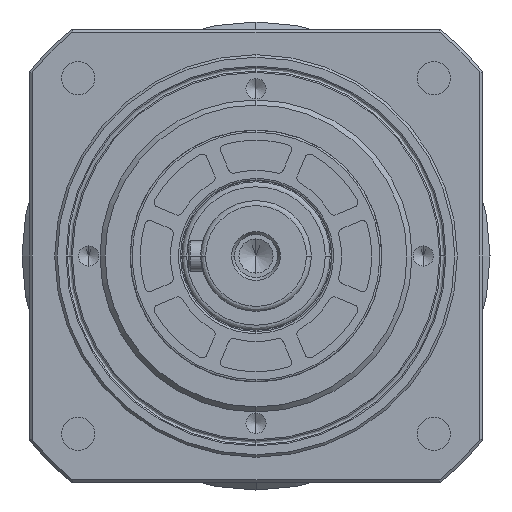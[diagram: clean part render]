
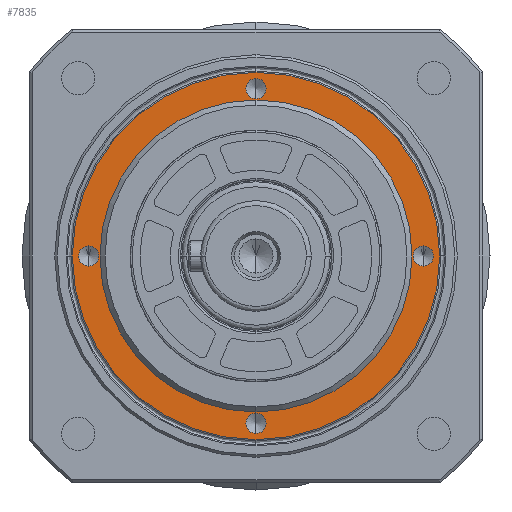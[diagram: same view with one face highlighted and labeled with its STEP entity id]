
A CAD part, left-side view. The second image highlights one B-rep face of the part: STEP entity #7835.
In plain terms, the highlighted planar face has unit normal (-1, 0, 0).
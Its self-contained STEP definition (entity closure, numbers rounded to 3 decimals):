
#8 = VERTEX_POINT ( 'NONE', #15969 ) ;
#155 = CARTESIAN_POINT ( 'NONE',  ( 1., 0., -31. ) ) ;
#219 = DIRECTION ( 'NONE',  ( 0., 0., 1. ) ) ;
#278 = DIRECTION ( 'NONE',  ( 1., 0., 0. ) ) ;
#623 = FACE_BOUND ( 'NONE', #19604, .T. ) ;
#626 = ORIENTED_EDGE ( 'NONE', *, *, #3490, .T. ) ;
#679 = CIRCLE ( 'NONE', #2704, 2. ) ;
#1249 = AXIS2_PLACEMENT_3D ( 'NONE', #19547, #10641, #18312 ) ;
#1250 = EDGE_LOOP ( 'NONE', ( #6197, #9457 ) ) ;
#1418 = CIRCLE ( 'NONE', #6004, 2. ) ;
#1488 = CARTESIAN_POINT ( 'NONE',  ( 1., 0., 35.25 ) ) ;
#1927 = EDGE_CURVE ( 'NONE', #15870, #15093, #15354, .T. ) ;
#2006 = EDGE_CURVE ( 'NONE', #8, #3250, #8808, .T. ) ;
#2320 = DIRECTION ( 'NONE',  ( 1., 0., 0. ) ) ;
#2394 = CARTESIAN_POINT ( 'NONE',  ( 1., 0., 33.25 ) ) ;
#2447 = EDGE_CURVE ( 'NONE', #15673, #16539, #14187, .T. ) ;
#2456 = DIRECTION ( 'NONE',  ( 0., 0., 1. ) ) ;
#2704 = AXIS2_PLACEMENT_3D ( 'NONE', #17118, #15471, #15672 ) ;
#2890 = DIRECTION ( 'NONE',  ( 0., 0., 1. ) ) ;
#2919 = AXIS2_PLACEMENT_3D ( 'NONE', #3277, #278, #219 ) ;
#3143 = VERTEX_POINT ( 'NONE', #13756 ) ;
#3194 = AXIS2_PLACEMENT_3D ( 'NONE', #15114, #4050, #11915 ) ;
#3226 = EDGE_CURVE ( 'NONE', #16539, #15673, #12710, .T. ) ;
#3250 = VERTEX_POINT ( 'NONE', #1488 ) ;
#3277 = CARTESIAN_POINT ( 'NONE',  ( 1., 33.25, 0. ) ) ;
#3490 = EDGE_CURVE ( 'NONE', #17390, #3143, #1418, .T. ) ;
#3525 = DIRECTION ( 'NONE',  ( 0., 0., 1. ) ) ;
#3963 = DIRECTION ( 'NONE',  ( 1., 0., 0. ) ) ;
#4050 = DIRECTION ( 'NONE',  ( 1., 0., 0. ) ) ;
#4405 = ORIENTED_EDGE ( 'NONE', *, *, #5809, .T. ) ;
#4439 = DIRECTION ( 'NONE',  ( 0., 0., 1. ) ) ;
#4473 = AXIS2_PLACEMENT_3D ( 'NONE', #15551, #7849, #3525 ) ;
#4631 = CARTESIAN_POINT ( 'NONE',  ( 1., 33.25, 0. ) ) ;
#4856 = FACE_BOUND ( 'NONE', #12597, .T. ) ;
#5148 = EDGE_CURVE ( 'NONE', #15093, #15870, #13714, .T. ) ;
#5809 = EDGE_CURVE ( 'NONE', #3143, #17390, #679, .T. ) ;
#6004 = AXIS2_PLACEMENT_3D ( 'NONE', #8372, #9836, #19363 ) ;
#6121 = CARTESIAN_POINT ( 'NONE',  ( 1., -33.25, 2. ) ) ;
#6184 = CIRCLE ( 'NONE', #15646, 36.5 ) ;
#6197 = ORIENTED_EDGE ( 'NONE', *, *, #8414, .T. ) ;
#6300 = CARTESIAN_POINT ( 'NONE',  ( 1., 36.5, 0. ) ) ;
#6613 = CARTESIAN_POINT ( 'NONE',  ( 1., 0., 31. ) ) ;
#6622 = FACE_BOUND ( 'NONE', #8271, .T. ) ;
#6748 = ORIENTED_EDGE ( 'NONE', *, *, #16558, .T. ) ;
#7039 = CARTESIAN_POINT ( 'NONE',  ( 1., -33.25, 0. ) ) ;
#7052 = CARTESIAN_POINT ( 'NONE',  ( 1., -33.25, -2. ) ) ;
#7142 = PLANE ( 'NONE',  #15925 ) ;
#7151 = VERTEX_POINT ( 'NONE', #11139 ) ;
#7586 = DIRECTION ( 'NONE',  ( 1., 0., 0. ) ) ;
#7835 = ADVANCED_FACE ( 'NONE', ( #4856, #9086, #10851, #6622, #13590, #623 ), #7142, .T. ) ;
#7849 = DIRECTION ( 'NONE',  ( 1., 0., 0. ) ) ;
#7980 = ORIENTED_EDGE ( 'NONE', *, *, #13623, .T. ) ;
#8151 = DIRECTION ( 'NONE',  ( 0., 1., 0. ) ) ;
#8271 = EDGE_LOOP ( 'NONE', ( #17149, #16889 ) ) ;
#8372 = CARTESIAN_POINT ( 'NONE',  ( 1., 0., -33.25 ) ) ;
#8414 = EDGE_CURVE ( 'NONE', #3250, #8, #9091, .T. ) ;
#8559 = ORIENTED_EDGE ( 'NONE', *, *, #9613, .F. ) ;
#8796 = DIRECTION ( 'NONE',  ( -1., 0., 0. ) ) ;
#8808 = CIRCLE ( 'NONE', #4473, 2. ) ;
#8845 = ORIENTED_EDGE ( 'NONE', *, *, #3226, .T. ) ;
#9060 = EDGE_LOOP ( 'NONE', ( #626, #4405 ) ) ;
#9086 = FACE_OUTER_BOUND ( 'NONE', #11183, .T. ) ;
#9091 = CIRCLE ( 'NONE', #20043, 2. ) ;
#9235 = VERTEX_POINT ( 'NONE', #6613 ) ;
#9457 = ORIENTED_EDGE ( 'NONE', *, *, #2006, .T. ) ;
#9613 = EDGE_CURVE ( 'NONE', #15707, #7151, #6184, .T. ) ;
#9836 = DIRECTION ( 'NONE',  ( 1., 0., 0. ) ) ;
#9954 = CARTESIAN_POINT ( 'NONE',  ( 1., 0., 0. ) ) ;
#10160 = CARTESIAN_POINT ( 'NONE',  ( 1., 33.25, -2. ) ) ;
#10266 = CARTESIAN_POINT ( 'NONE',  ( 1., 31., 0. ) ) ;
#10641 = DIRECTION ( 'NONE',  ( 1., 0., 0. ) ) ;
#10822 = CARTESIAN_POINT ( 'NONE',  ( 1., 33.25, 2. ) ) ;
#10851 = FACE_BOUND ( 'NONE', #9060, .T. ) ;
#11139 = CARTESIAN_POINT ( 'NONE',  ( 1., -36.5, 0. ) ) ;
#11183 = EDGE_LOOP ( 'NONE', ( #8559, #12627 ) ) ;
#11269 = AXIS2_PLACEMENT_3D ( 'NONE', #9954, #11338, #8151 ) ;
#11338 = DIRECTION ( 'NONE',  ( 1., 0., 0. ) ) ;
#11715 = DIRECTION ( 'NONE',  ( 0., 0., 1. ) ) ;
#11915 = DIRECTION ( 'NONE',  ( 0., 0., -1. ) ) ;
#12597 = EDGE_LOOP ( 'NONE', ( #6748, #7980 ) ) ;
#12627 = ORIENTED_EDGE ( 'NONE', *, *, #18495, .F. ) ;
#12708 = DIRECTION ( 'NONE',  ( 0., 1., 0. ) ) ;
#12710 = CIRCLE ( 'NONE', #13467, 2. ) ;
#13467 = AXIS2_PLACEMENT_3D ( 'NONE', #4631, #18633, #2890 ) ;
#13590 = FACE_BOUND ( 'NONE', #1250, .T. ) ;
#13623 = EDGE_CURVE ( 'NONE', #9235, #18391, #16463, .T. ) ;
#13714 = CIRCLE ( 'NONE', #17435, 2. ) ;
#13756 = CARTESIAN_POINT ( 'NONE',  ( 1., 0., -35.25 ) ) ;
#13845 = CARTESIAN_POINT ( 'NONE',  ( 1., -33.25, 0. ) ) ;
#14133 = CARTESIAN_POINT ( 'NONE',  ( 1., 0., 0. ) ) ;
#14187 = CIRCLE ( 'NONE', #2919, 2. ) ;
#14449 = CARTESIAN_POINT ( 'NONE',  ( 1., 0., -31.25 ) ) ;
#15093 = VERTEX_POINT ( 'NONE', #6121 ) ;
#15114 = CARTESIAN_POINT ( 'NONE',  ( 1., 0., 0. ) ) ;
#15354 = CIRCLE ( 'NONE', #17625, 2. ) ;
#15471 = DIRECTION ( 'NONE',  ( 1., 0., 0. ) ) ;
#15551 = CARTESIAN_POINT ( 'NONE',  ( 1., 0., 33.25 ) ) ;
#15646 = AXIS2_PLACEMENT_3D ( 'NONE', #14133, #7586, #12708 ) ;
#15672 = DIRECTION ( 'NONE',  ( 0., 0., 1. ) ) ;
#15673 = VERTEX_POINT ( 'NONE', #10822 ) ;
#15707 = VERTEX_POINT ( 'NONE', #6300 ) ;
#15870 = VERTEX_POINT ( 'NONE', #7052 ) ;
#15925 = AXIS2_PLACEMENT_3D ( 'NONE', #10266, #8796, #11715 ) ;
#15969 = CARTESIAN_POINT ( 'NONE',  ( 1., 0., 31.25 ) ) ;
#16463 = CIRCLE ( 'NONE', #3194, 31. ) ;
#16539 = VERTEX_POINT ( 'NONE', #10160 ) ;
#16558 = EDGE_CURVE ( 'NONE', #18391, #9235, #18369, .T. ) ;
#16721 = DIRECTION ( 'NONE',  ( 0., 0., 1. ) ) ;
#16889 = ORIENTED_EDGE ( 'NONE', *, *, #1927, .T. ) ;
#16986 = ORIENTED_EDGE ( 'NONE', *, *, #2447, .T. ) ;
#17118 = CARTESIAN_POINT ( 'NONE',  ( 1., 0., -33.25 ) ) ;
#17149 = ORIENTED_EDGE ( 'NONE', *, *, #5148, .T. ) ;
#17390 = VERTEX_POINT ( 'NONE', #14449 ) ;
#17435 = AXIS2_PLACEMENT_3D ( 'NONE', #7039, #2320, #16721 ) ;
#17625 = AXIS2_PLACEMENT_3D ( 'NONE', #13845, #18723, #4439 ) ;
#17636 = CIRCLE ( 'NONE', #11269, 36.5 ) ;
#18312 = DIRECTION ( 'NONE',  ( 0., 0., -1. ) ) ;
#18369 = CIRCLE ( 'NONE', #1249, 31. ) ;
#18391 = VERTEX_POINT ( 'NONE', #155 ) ;
#18495 = EDGE_CURVE ( 'NONE', #7151, #15707, #17636, .T. ) ;
#18633 = DIRECTION ( 'NONE',  ( 1., 0., 0. ) ) ;
#18723 = DIRECTION ( 'NONE',  ( 1., 0., 0. ) ) ;
#19363 = DIRECTION ( 'NONE',  ( 0., 0., 1. ) ) ;
#19547 = CARTESIAN_POINT ( 'NONE',  ( 1., 0., 0. ) ) ;
#19604 = EDGE_LOOP ( 'NONE', ( #16986, #8845 ) ) ;
#20043 = AXIS2_PLACEMENT_3D ( 'NONE', #2394, #3963, #2456 ) ;
